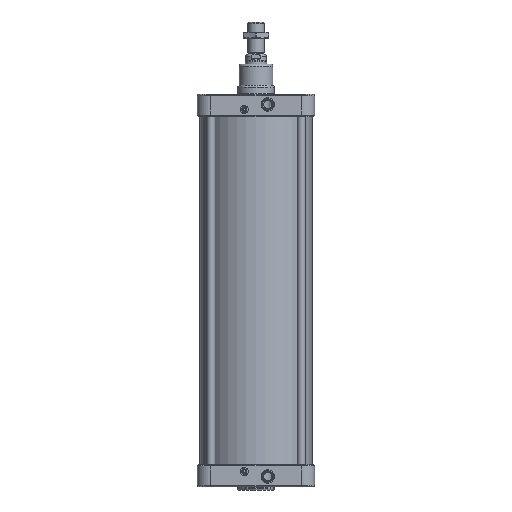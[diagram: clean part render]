
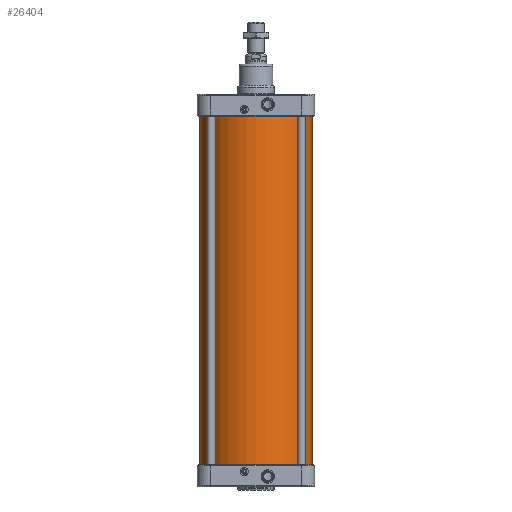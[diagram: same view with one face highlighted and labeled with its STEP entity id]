
A CAD part, front view. The second image highlights one B-rep face of the part: STEP entity #26404.
In plain terms, the highlighted cylindrical face has radius 168 mm (diameter 336 mm), a full revolution.
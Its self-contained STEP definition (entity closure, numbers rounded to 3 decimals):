
#2804=CIRCLE('',#29645,168.);
#2805=CIRCLE('',#29647,168.);
#3478=FACE_BOUND('',#7098,.T.);
#5147=FACE_OUTER_BOUND('',#7097,.T.);
#7097=EDGE_LOOP('',(#22547));
#7098=EDGE_LOOP('',(#22548));
#11979=VERTEX_POINT('',#64759);
#11980=VERTEX_POINT('',#64762);
#15511=EDGE_CURVE('',#11979,#11979,#2804,.T.);
#15512=EDGE_CURVE('',#11980,#11980,#2805,.T.);
#22547=ORIENTED_EDGE('',*,*,#15511,.T.);
#22548=ORIENTED_EDGE('',*,*,#15512,.T.);
#23070=CYLINDRICAL_SURFACE('',#29646,168.);
#26404=ADVANCED_FACE('',(#5147,#3478),#23070,.T.);
#29645=AXIS2_PLACEMENT_3D('',#64760,#36878,#36879);
#29646=AXIS2_PLACEMENT_3D('',#64761,#36880,#36881);
#29647=AXIS2_PLACEMENT_3D('',#64763,#36882,#36883);
#36878=DIRECTION('center_axis',(0.,0.,1.));
#36879=DIRECTION('ref_axis',(-1.,0.,0.));
#36880=DIRECTION('center_axis',(0.,0.,1.));
#36881=DIRECTION('ref_axis',(-1.,0.,0.));
#36882=DIRECTION('center_axis',(0.,0.,-1.));
#36883=DIRECTION('ref_axis',(-1.,0.,0.));
#64759=CARTESIAN_POINT('',(168.,0.,-520.));
#64760=CARTESIAN_POINT('Origin',(0.,0.,-520.));
#64761=CARTESIAN_POINT('Origin',(0.,0.,0.));
#64762=CARTESIAN_POINT('',(168.,0.,520.));
#64763=CARTESIAN_POINT('Origin',(0.,0.,520.));
